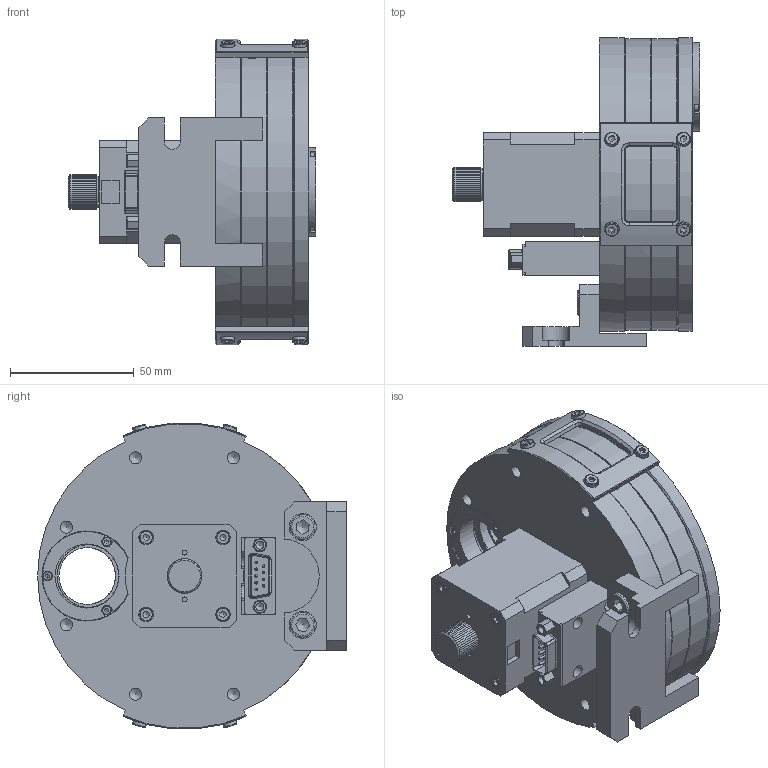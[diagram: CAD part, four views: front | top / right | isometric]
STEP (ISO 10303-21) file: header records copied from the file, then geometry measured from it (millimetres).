
FILE_DESCRIPTION(/* description */ (''),/* implementation_level */ '2;1');
FILE_NAME(/* name */ 'U:\KONSTRUKTORIAI\DOKUMENTACIJA\10\10MCWA168\10MCWA168-1\STEP\10MCWA168-1 SB.stp',/* time_stamp */ '2020-07-28T08:38:04+03:00',/* author */ ('dsgn32'),/* organization */ (''),/* preprocessor_version */ 'ST-DEVELOPER v15.2',/* originating_system */ 'Autodesk Inventor 2014',/* authorisation */ '');
FILE_SCHEMA (('AUTOMOTIVE_DESIGN { 1 0 10303 214 3 1 1 }'));
Length unit declared in the file: millimetre
Products named in the file (1): 10MCWA168-1 SB
Bounding box: 100 x 125.01 x 123.66 mm (x, y, z)
Volume: 415201.7 mm3; surface area: 135320.6 mm2
Topology: 1 solids, 39 shells, 1082 faces, 2472 edges, 1559 vertices
Faces by surface type: plane 613, cylinder 300, cone 90, torus 42, bspline 28, sphere 9
Full cylindrical faces by diameter (mm): 1 x9, 1.567 x6, 2 x6, 2.013 x2, 2.3 x1, 2.4 x6, 2.459 x14, 2.5 x4, 2.8 x4, 3 x14, 3.242 x1, 3.302 x2, 3.4 x8, 3.5 x6, 3.8 x6, 4.917 x8, 5 x5, 5.5 x12, 6 x14, 6.5 x2, 10 x2, 11 x2, 23 x17, 25.45 x16, 25.5 x16, 25.917 x2, 28.5 x2, 32 x1, 36 x1, 44 x1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
Entity records: 29819 total; most frequent: CARTESIAN_POINT 7271, DIRECTION 4549, ORIENTED_EDGE 3932, EDGE_CURVE 1966, AXIS2_PLACEMENT_3D 1808, EDGE_LOOP 1609, VERTEX_POINT 1381, ADVANCED_FACE 1082
